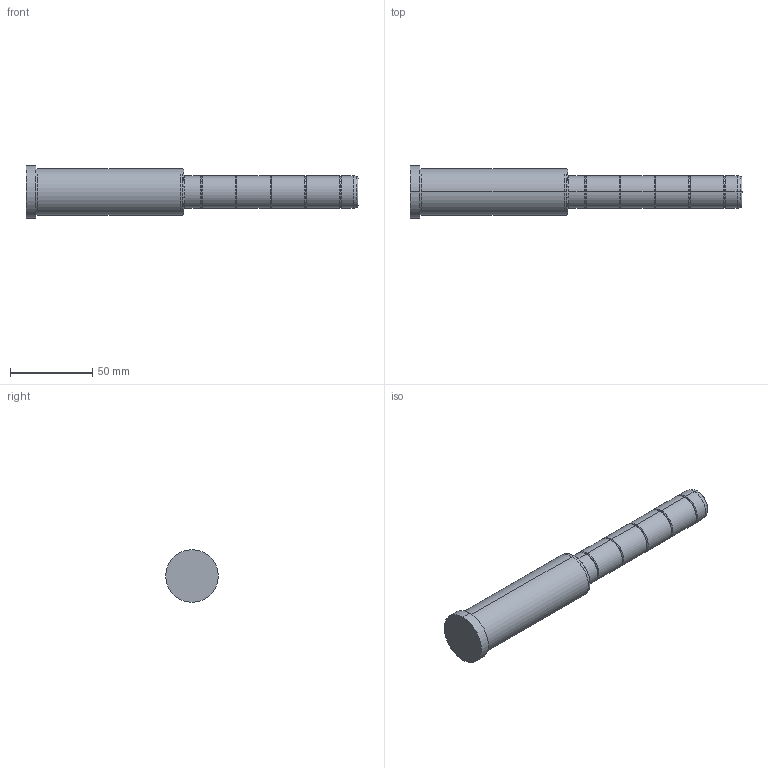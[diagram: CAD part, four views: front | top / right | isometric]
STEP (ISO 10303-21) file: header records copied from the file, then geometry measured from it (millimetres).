
FILE_DESCRIPTION( ( 'STEP AP203' ), '1' );
FILE_NAME( 'C:/Projects/D02 - 20x96x106.step', '2003-01-04T13:45:33', ( ' ' ), ( ' ' ), 'XStep 1.0', ' ', ' ' );
FILE_SCHEMA( ( 'CONFIG_CONTROL_DESIGN' ) );
Length unit declared in the file: metre
Products named in the file (1): 1
Bounding box: 202 x 32 x 32 mm (x, y, z)
Volume: 93412.2 mm3; surface area: 16857.1 mm2
Topology: 1 solids, 1 shells, 54 faces, 106 edges, 58 vertices
Faces by surface type: bspline 30, revolution 24
Entity records: 1721 total; most frequent: CARTESIAN_POINT 717, ORIENTED_EDGE 212, DIRECTION 166, EDGE_CURVE 106, AXIS2_PLACEMENT_3D 59, EDGE_LOOP 58, VERTEX_POINT 58, CIRCLE 58
